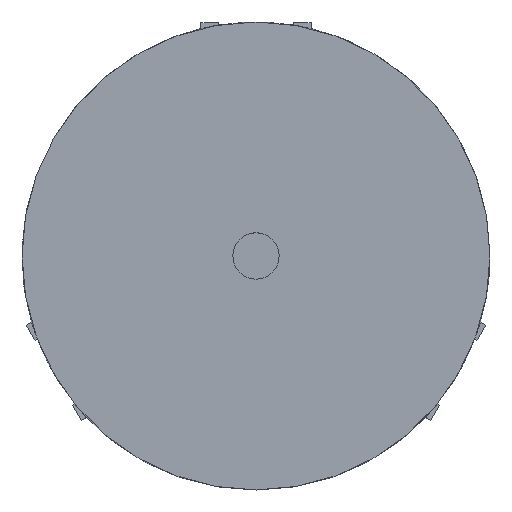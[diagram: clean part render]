
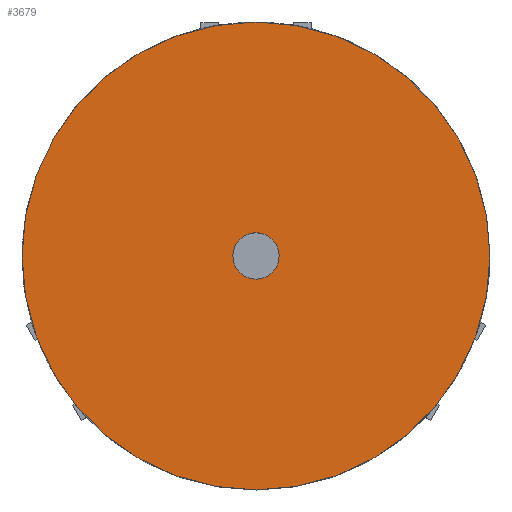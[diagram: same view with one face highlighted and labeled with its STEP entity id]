
A CAD part, top view. The second image highlights one B-rep face of the part: STEP entity #3679.
In plain terms, the highlighted planar face has unit normal (0, 0, 1).
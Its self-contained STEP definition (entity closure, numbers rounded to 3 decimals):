
#22 = VERTEX_POINT('',#23);
#23 = CARTESIAN_POINT('',(48.,0.,9.405));
#32 = CYLINDRICAL_SURFACE('',#33,48.);
#33 = AXIS2_PLACEMENT_3D('',#34,#35,#36);
#34 = CARTESIAN_POINT('',(0.,0.,1.705));
#35 = DIRECTION('',(-0.,-0.,-1.));
#36 = DIRECTION('',(1.,0.,0.));
#51 = EDGE_CURVE('',#22,#22,#52,.T.);
#52 = SURFACE_CURVE('',#53,(#58,#65),.PCURVE_S1.);
#53 = CIRCLE('',#54,48.);
#54 = AXIS2_PLACEMENT_3D('',#55,#56,#57);
#55 = CARTESIAN_POINT('',(0.,0.,9.405));
#56 = DIRECTION('',(0.,0.,1.));
#57 = DIRECTION('',(1.,0.,0.));
#58 = PCURVE('',#32,#59);
#59 = DEFINITIONAL_REPRESENTATION('',(#60),#64);
#60 = LINE('',#61,#62);
#61 = CARTESIAN_POINT('',(-0.,-7.7));
#62 = VECTOR('',#63,1.);
#63 = DIRECTION('',(-1.,0.));
#64 = ( GEOMETRIC_REPRESENTATION_CONTEXT(2) 
PARAMETRIC_REPRESENTATION_CONTEXT() REPRESENTATION_CONTEXT('2D SPACE',''
  ) );
#65 = PCURVE('',#66,#71);
#66 = PLANE('',#67);
#67 = AXIS2_PLACEMENT_3D('',#68,#69,#70);
#68 = CARTESIAN_POINT('',(0.,0.,
    9.405));
#69 = DIRECTION('',(0.,0.,1.));
#70 = DIRECTION('',(1.,0.,-0.));
#71 = DEFINITIONAL_REPRESENTATION('',(#72),#76);
#72 = CIRCLE('',#73,48.);
#73 = AXIS2_PLACEMENT_2D('',#74,#75);
#74 = CARTESIAN_POINT('',(0.,0.));
#75 = DIRECTION('',(1.,0.));
#76 = ( GEOMETRIC_REPRESENTATION_CONTEXT(2) 
PARAMETRIC_REPRESENTATION_CONTEXT() REPRESENTATION_CONTEXT('2D SPACE',''
  ) );
#3679 = ADVANCED_FACE('',(#3680,#3683),#66,.T.);
#3680 = FACE_BOUND('',#3681,.T.);
#3681 = EDGE_LOOP('',(#3682));
#3682 = ORIENTED_EDGE('',*,*,#51,.T.);
#3683 = FACE_BOUND('',#3684,.T.);
#3684 = EDGE_LOOP('',(#3685));
#3685 = ORIENTED_EDGE('',*,*,#3686,.T.);
#3686 = EDGE_CURVE('',#3687,#3687,#3689,.T.);
#3687 = VERTEX_POINT('',#3688);
#3688 = CARTESIAN_POINT('',(4.75,0.,9.405));
#3689 = SURFACE_CURVE('',#3690,(#3695,#3706),.PCURVE_S1.);
#3690 = CIRCLE('',#3691,4.75);
#3691 = AXIS2_PLACEMENT_3D('',#3692,#3693,#3694);
#3692 = CARTESIAN_POINT('',(0.,0.,9.405));
#3693 = DIRECTION('',(0.,0.,-1.));
#3694 = DIRECTION('',(1.,0.,0.));
#3695 = PCURVE('',#66,#3696);
#3696 = DEFINITIONAL_REPRESENTATION('',(#3697),#3705);
#3697 = ( BOUNDED_CURVE() B_SPLINE_CURVE(2,(#3698,#3699,#3700,#3701,
#3702,#3703,#3704),.UNSPECIFIED.,.T.,.F.) B_SPLINE_CURVE_WITH_KNOTS((1,2
    ,2,2,2,1),(-2.094,0.,2.094,4.189,
6.283,8.378),.UNSPECIFIED.) CURVE() 
GEOMETRIC_REPRESENTATION_ITEM() RATIONAL_B_SPLINE_CURVE((1.,0.5,1.,0.5,
1.,0.5,1.)) REPRESENTATION_ITEM('') );
#3698 = CARTESIAN_POINT('',(4.75,0.));
#3699 = CARTESIAN_POINT('',(4.75,-8.227));
#3700 = CARTESIAN_POINT('',(-2.375,-4.114));
#3701 = CARTESIAN_POINT('',(-9.5,0.));
#3702 = CARTESIAN_POINT('',(-2.375,4.114));
#3703 = CARTESIAN_POINT('',(4.75,8.227));
#3704 = CARTESIAN_POINT('',(4.75,0.));
#3705 = ( GEOMETRIC_REPRESENTATION_CONTEXT(2) 
PARAMETRIC_REPRESENTATION_CONTEXT() REPRESENTATION_CONTEXT('2D SPACE',''
  ) );
#3706 = PCURVE('',#3707,#3712);
#3707 = CYLINDRICAL_SURFACE('',#3708,4.75);
#3708 = AXIS2_PLACEMENT_3D('',#3709,#3710,#3711);
#3709 = CARTESIAN_POINT('',(0.,0.,5.905));
#3710 = DIRECTION('',(-0.,-0.,-1.));
#3711 = DIRECTION('',(1.,0.,0.));
#3712 = DEFINITIONAL_REPRESENTATION('',(#3713),#3717);
#3713 = LINE('',#3714,#3715);
#3714 = CARTESIAN_POINT('',(-6.283,-3.5));
#3715 = VECTOR('',#3716,1.);
#3716 = DIRECTION('',(1.,-0.));
#3717 = ( GEOMETRIC_REPRESENTATION_CONTEXT(2) 
PARAMETRIC_REPRESENTATION_CONTEXT() REPRESENTATION_CONTEXT('2D SPACE',''
  ) );
